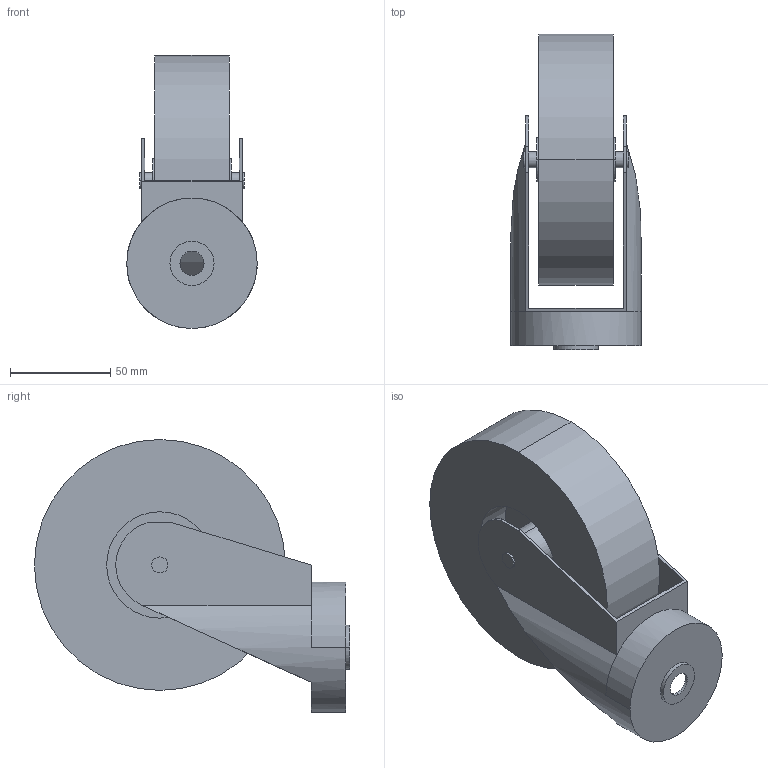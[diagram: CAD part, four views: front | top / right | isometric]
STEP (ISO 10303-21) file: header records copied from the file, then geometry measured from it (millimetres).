
FILE_DESCRIPTION((''),'2;1');
FILE_NAME('RUP125N_ASM','2002-12-27T',('Lipro doo'),('Lipro d.o.o.'),'PRO/ENGINEER BY PARAMETRIC TECHNOLOGY CORPORATION, 2001150','PRO/ENGINEER BY PARAMETRIC TECHNOLOGY CORPORATION, 2001150','');
FILE_SCHEMA(('CONFIG_CONTROL_DESIGN'));
Length unit declared in the file: millimetre
Products named in the file (3): RUP125_2; RUP125_1; RUP125N_ASM
Assembly tree (2 placements, depth 2):
  RUP125N_ASM
    RUP125_2
    RUP125_1
Bounding box: 65 x 157 x 136 mm (x, y, z)
Volume: 418449.2 mm3; surface area: 81983 mm2
Topology: 2 solids, 2 shells, 54 faces, 127 edges, 85 vertices
Faces by surface type: cylinder 30, plane 24
Entity records: 1707 total; most frequent: CARTESIAN_POINT 303, DIRECTION 302, ORIENTED_EDGE 254, EDGE_CURVE 127, AXIS2_PLACEMENT_3D 122, VERTEX_POINT 85, EDGE_LOOP 68, CIRCLE 63
